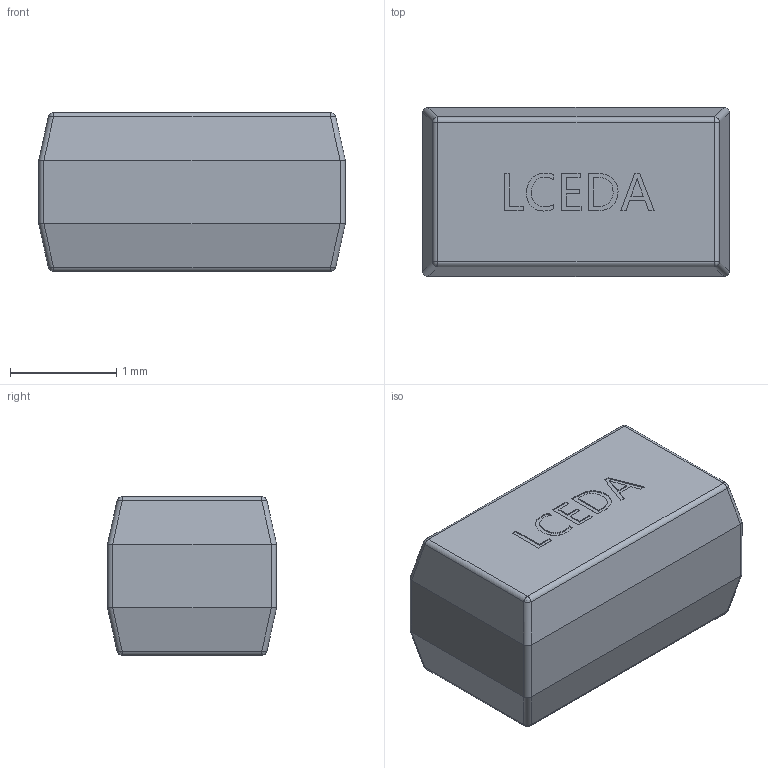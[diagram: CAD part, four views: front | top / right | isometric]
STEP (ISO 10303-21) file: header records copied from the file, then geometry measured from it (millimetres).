
FILE_DESCRIPTION(/* description */ ('STEP AP242 Edition 2','CAx-IF Rec.Pracs.---Representation and Presentation of Product Manufacturing Information (PMI)---4.0---2014-10-13','CAx-IF Rec.Pracs.---3D Tessellated Geometry---0.4---2014-09-14','2;1','CAx-IF Rec.Pracs.---User Defined Attributes---1.5---2016-08-15'),/* implementation_level */ '2;1');
FILE_NAME(/* name */ 'Assembly 1 - SOT-23-6_L2.9-W1.6-P0.95-LS2.8-BL~SOT-23-6_L2.9-W1.6-H1.5-LS2.8-P0.95~nxQB (17)',/* time_stamp */ '2026-04-02T09:55:24Z',/* author */ (''),/* organization */ (''),/* preprocessor_version */ 'ST-DEVELOPER v20',/* originating_system */ 'ONSHAPE BY PTC INC, 1.212',/* authorisation */ ' ');
FILE_SCHEMA (('AP242_MANAGED_MODEL_BASED_3D_ENGINEERING_MIM_LF { 1 0 10303 442 3 1 4 }'));
Length unit declared in the file: metre
Products named in the file (1): SOT-23-6_L2.9-W1.6-P0.95-LS2.8-BL~SOT-23-6_L2.9-W1.6-H1.5-LS2.8-P0.95
~nxQB
Bounding box: 2.88 x 1.59 x 1.49 mm (x, y, z)
Volume: 6.4 mm3; surface area: 20.4 mm2
Topology: 1 solids, 1 shells, 196 faces, 503 edges, 326 vertices
Faces by surface type: plane 102, bspline 45, cylinder 39, sphere 10
Full cylindrical faces by diameter (mm): 0.248 x1
Entity records: 9954 total; most frequent: CARTESIAN_POINT 4078, ORIENTED_EDGE 1002, DIRECTION 783, EDGE_CURVE 501, VERTEX_POINT 326, LINE 297, VECTOR 297, AXIS2_PLACEMENT_3D 243
